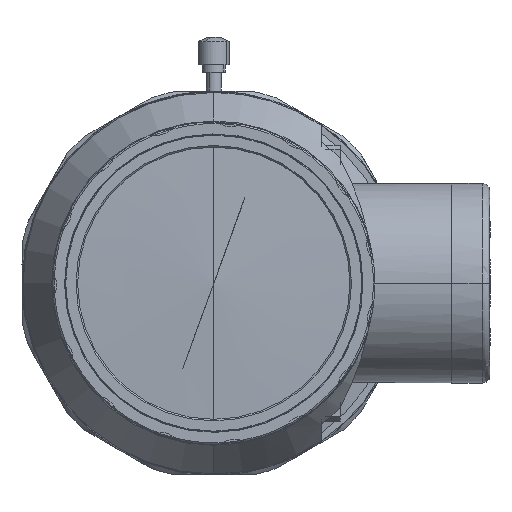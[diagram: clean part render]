
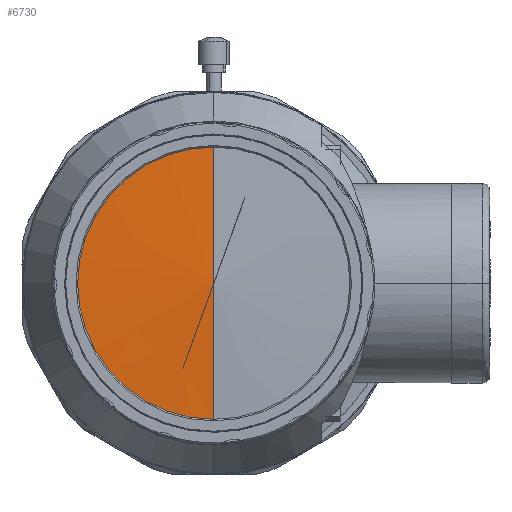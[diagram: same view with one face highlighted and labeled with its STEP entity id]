
A CAD part, left-side view. The second image highlights one B-rep face of the part: STEP entity #6730.
In plain terms, the highlighted conical face has half-angle 87.803 degrees and reference radius 18.958 mm.
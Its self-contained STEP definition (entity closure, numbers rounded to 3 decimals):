
#361 = CARTESIAN_POINT ( 'NONE',  ( 0.681, 0., 0. ) ) ;
#427 = DIRECTION ( 'NONE',  ( 1., 0., 0. ) ) ;
#967 = EDGE_CURVE ( 'NONE', #13103, #7042, #8549, .T. ) ;
#1461 = FACE_OUTER_BOUND ( 'NONE', #14695, .T. ) ;
#1996 = DIRECTION ( 'NONE',  ( 0., 0., -1. ) ) ;
#2255 = DIRECTION ( 'NONE',  ( 0.038, 0., 0.999 ) ) ;
#2610 = LINE ( 'NONE', #19344, #7006 ) ;
#3528 = CARTESIAN_POINT ( 'NONE',  ( 0.681, 0., 17.75 ) ) ;
#4032 = CARTESIAN_POINT ( 'NONE',  ( 0.727, 0., 0. ) ) ;
#4093 = DIRECTION ( 'NONE',  ( 0., 0., -1. ) ) ;
#5727 = CARTESIAN_POINT ( 'NONE',  ( 0., 0., 0. ) ) ;
#6274 = LINE ( 'NONE', #16022, #16771 ) ;
#6730 = ADVANCED_FACE ( 'NONE', ( #1461 ), #13243, .T. ) ;
#7006 = VECTOR ( 'NONE', #2255, 1000. ) ;
#7042 = VERTEX_POINT ( 'NONE', #3528 ) ;
#7076 = ORIENTED_EDGE ( 'NONE', *, *, #17443, .T. ) ;
#8420 = VERTEX_POINT ( 'NONE', #5727 ) ;
#8430 = DIRECTION ( 'NONE',  ( 0.038, 0., -0.999 ) ) ;
#8549 = CIRCLE ( 'NONE', #16857, 17.75 ) ;
#11746 = DIRECTION ( 'NONE',  ( 1., 0., 0. ) ) ;
#11826 = ORIENTED_EDGE ( 'NONE', *, *, #967, .F. ) ;
#13103 = VERTEX_POINT ( 'NONE', #16272 ) ;
#13243 = CONICAL_SURFACE ( 'NONE', #17076, 18.958, 1.532 ) ;
#14695 = EDGE_LOOP ( 'NONE', ( #19619, #7076, #11826 ) ) ;
#16022 = CARTESIAN_POINT ( 'NONE',  ( 0.727, 0., -18.958 ) ) ;
#16272 = CARTESIAN_POINT ( 'NONE',  ( 0.681, 0., -17.75 ) ) ;
#16771 = VECTOR ( 'NONE', #8430, 1000. ) ;
#16857 = AXIS2_PLACEMENT_3D ( 'NONE', #361, #427, #1996 ) ;
#17076 = AXIS2_PLACEMENT_3D ( 'NONE', #4032, #11746, #4093 ) ;
#17443 = EDGE_CURVE ( 'NONE', #8420, #7042, #2610, .T. ) ;
#18305 = EDGE_CURVE ( 'NONE', #8420, #13103, #6274, .T. ) ;
#19344 = CARTESIAN_POINT ( 'NONE',  ( 0.727, 0., 18.958 ) ) ;
#19619 = ORIENTED_EDGE ( 'NONE', *, *, #18305, .F. ) ;
